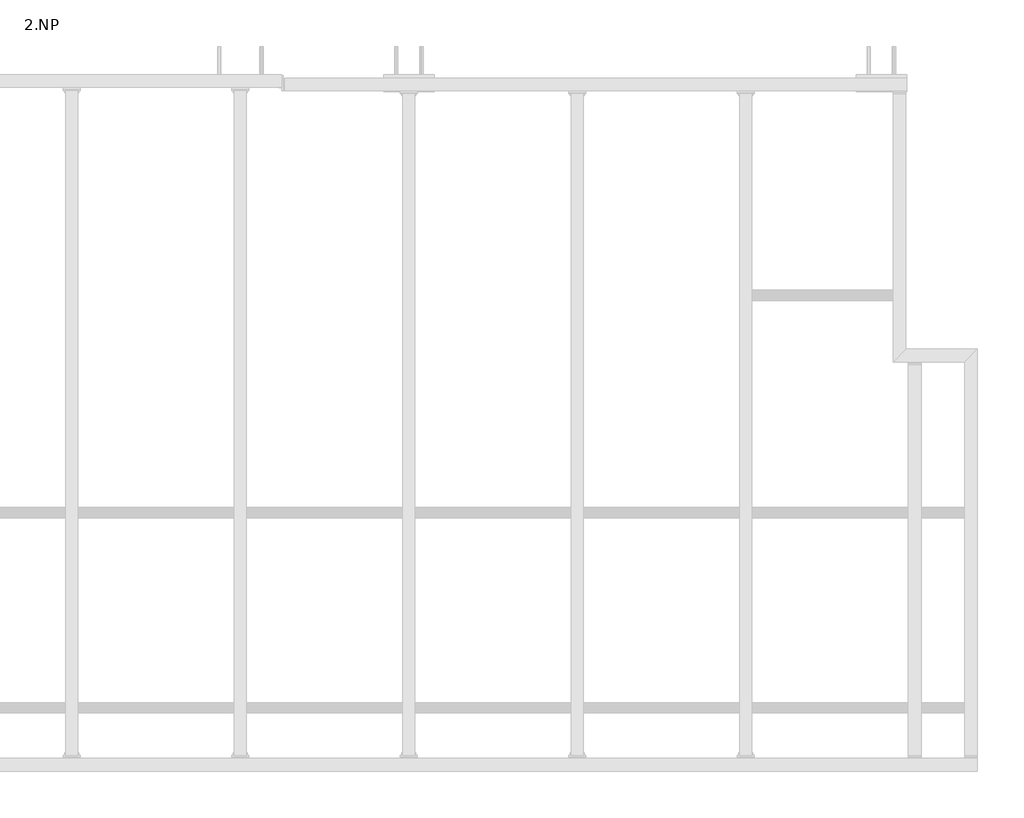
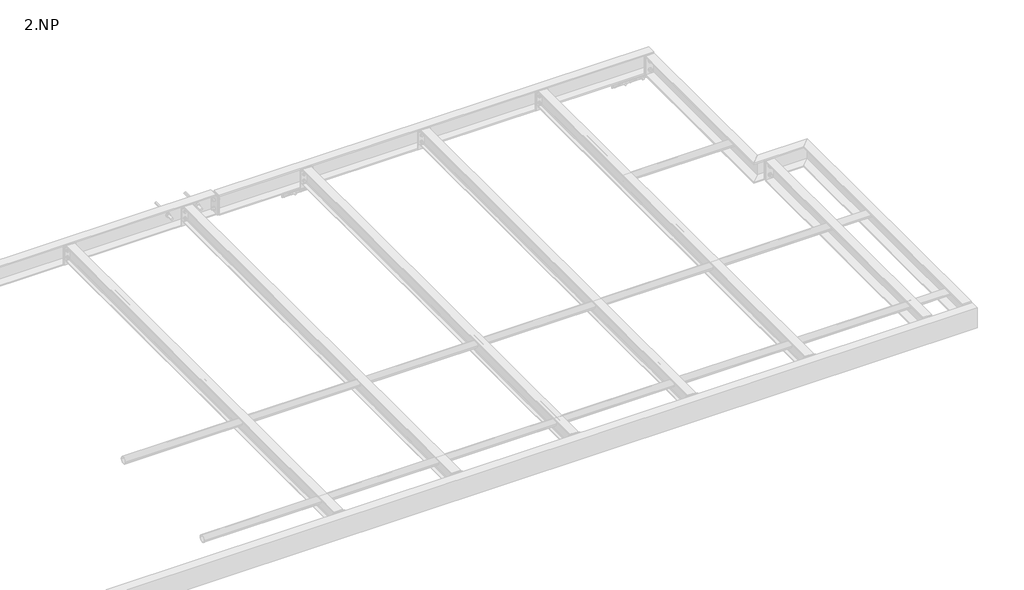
# One storey, part 18 of 18: 10 assemblies.
"""IFC4 building model written with IfcOpenShell, lengths in millimetres."""

import ifcopenshell
import ifcopenshell.guid

model = None  # the IFC model being written
_history = None  # IfcOwnerHistory: only IFC2X3 demands one
_inside = {}  # id of a spatial element -> (the spatial element, [elements in it])
_under = {}  # id of a project, library or spatial element -> (it, [spatial elements below it])
_declared = {}  # id of a project -> (the project, [libraries it declares])
_typed = {}  # id of a type object -> (the type object, [elements of that type])
_made_of = {}  # id of a material, layer set ... -> (it, [elements and type objects made of it])


def new_model(schema):
    """Start an empty IFC model of exactly this schema.

    Asked for "IFC4X3", IfcOpenShell would pick the latest addendum, in which some entities
    have other attributes; the version numbers below select the first issue.
    IFC2X3 requires an IfcOwnerHistory on every rooted entity: one is made here for all.
    """
    global model, _history
    if schema == "IFC4X3":
        model = ifcopenshell.file(schema_version=(4, 3, 0, 0))
    else:
        model = ifcopenshell.file(schema=schema)
    _inside.clear()
    _under.clear()
    _declared.clear()
    _typed.clear()
    _made_of.clear()
    _history = None
    if model.schema == "IFC2X3":
        org = make("IfcOrganization", Name="unknown")
        user = make(
            "IfcPersonAndOrganization",
            ThePerson=make("IfcPerson", FamilyName="unknown"),
            TheOrganization=org,
        )
        app = make(
            "IfcApplication",
            ApplicationDeveloper=org,
            Version="unknown",
            ApplicationFullName="unknown",
            ApplicationIdentifier="unknown",
        )
        _history = make(
            "IfcOwnerHistory",
            OwningUser=user,
            OwningApplication=app,
            ChangeAction="ADDED",
            CreationDate=0,
        )
    return model


def make(cls, **values):
    """One entity of the class cls with the attributes given. An attribute that is None is left unset."""
    return model.create_entity(
        cls, **{name: value for name, value in values.items() if value is not None}
    )


def rooted(cls, **values):
    """An entity with a GlobalId (a new one), such as an element, a storey or a relation."""
    return make(cls, GlobalId=ifcopenshell.guid.new(), OwnerHistory=_history, **values)


def si_unit(unit_type, name, prefix=None):
    """IfcSIUnit, for example si_unit("LENGTHUNIT", "METRE", prefix="MILLI")."""
    return make("IfcSIUnit", UnitType=unit_type, Prefix=prefix, Name=name)


def assignment(units):
    """IfcUnitAssignment: the units of a project."""
    return None if units is None else make("IfcUnitAssignment", Units=units)


def point(xyz):
    """IfcCartesianPoint."""
    return None if xyz is None else make("IfcCartesianPoint", Coordinates=xyz)


def direction(xyz):
    """IfcDirection."""
    return None if xyz is None else make("IfcDirection", DirectionRatios=xyz)


def frame(location, z_axis=None, x_axis=None):
    """IfcAxis2Placement3D, a coordinate frame: its origin and axes. An axis left out is left unset."""
    return make(
        "IfcAxis2Placement3D",
        Location=point(location),
        Axis=direction(z_axis),
        RefDirection=direction(x_axis),
    )


def frame_2d(location, x_axis=None):
    """IfcAxis2Placement2D, a coordinate frame in the plane: its origin and x axis."""
    return make(
        "IfcAxis2Placement2D", Location=point(location), RefDirection=direction(x_axis)
    )


def origin():
    """The frame at (0, 0, 0) with its axes left unset."""
    return frame((0.0, 0.0, 0.0))


def place(relative_to, where):
    """IfcLocalPlacement: puts the frame where relative to a parent placement (None: the world)."""
    return make(
        "IfcLocalPlacement", PlacementRelTo=relative_to, RelativePlacement=where
    )


def context(
    kind, dimensions, precision=None, world=None, true_north=None, identifier=None
):
    """IfcGeometricRepresentationContext, for example the 3D "Model" context."""
    return make(
        "IfcGeometricRepresentationContext",
        ContextIdentifier=identifier,
        ContextType=kind,
        CoordinateSpaceDimension=dimensions,
        Precision=precision,
        WorldCoordinateSystem=world,
        TrueNorth=true_north,
    )


def project(units=None, contexts=None):
    """IfcProject with its units and contexts."""
    return rooted(
        "IfcProject",
        Name="project",
        RepresentationContexts=contexts,
        UnitsInContext=assignment(units),
    )


def spatial(cls, under=None, at=None, **own):
    """A site, building, storey or space (cls), placed at a placement, below another one or the project."""
    s = rooted(cls, ObjectPlacement=at, **own)
    if under is not None:
        _under.setdefault(under.id(), (under, []))[1].append(s)
    return s


def polyline(points):
    """IfcPolyline through the points."""
    return make("IfcPolyline", Points=[point(p) for p in points])


def circle_curve(where, radius):
    """IfcCircle in the frame where."""
    return make("IfcCircle", Position=where, Radius=radius)


def trimmed(basis, trim1, trim2, sense, master):
    """IfcTrimmedCurve: the piece of a basis curve between two trims."""
    return make(
        "IfcTrimmedCurve",
        BasisCurve=basis,
        Trim1=trim1,
        Trim2=trim2,
        SenseAgreement=sense,
        MasterRepresentation=master,
    )


def segment(curve, same_sense, transition):
    """IfcCompositeCurveSegment."""
    return make(
        "IfcCompositeCurveSegment",
        Transition=transition,
        SameSense=same_sense,
        ParentCurve=curve,
    )


def composite_curve(segments, self_intersect=None):
    """IfcCompositeCurve: segments joined end to end."""
    return make("IfcCompositeCurve", Segments=segments, SelfIntersect=self_intersect)


def outline(outer, holes=None, kind="AREA"):
    """IfcArbitraryClosedProfileDef: a profile drawn as a closed curve; with holes, ...WithVoids."""
    if holes is None:
        return make("IfcArbitraryClosedProfileDef", ProfileType=kind, OuterCurve=outer)
    return make(
        "IfcArbitraryProfileDefWithVoids",
        ProfileType=kind,
        OuterCurve=outer,
        InnerCurves=holes,
    )


def extrude(swept, where, along, depth):
    """IfcExtrudedAreaSolid: the profile swept, set in the frame where, extruded along a direction by depth."""
    return make(
        "IfcExtrudedAreaSolid",
        SweptArea=swept,
        Position=where,
        ExtrudedDirection=direction(along),
        Depth=depth,
    )


def faces_of(points, faces, orient=None, outer=None):
    """IfcFace entities. A face is a list of loops; a loop is a list of indices into points, from 0.

    orient and outer hold one flag for each loop. By default every Orientation is true, the
    first loop of a face is its IfcFaceOuterBound and the others are IfcFaceBound.
    """
    made = []
    for i, loops in enumerate(faces):
        bounds = []
        for j, loop in enumerate(loops):
            is_outer = j == 0 if outer is None else outer[i][j]
            bounds.append(
                make(
                    "IfcFaceOuterBound" if is_outer else "IfcFaceBound",
                    Bound=make("IfcPolyLoop", Polygon=[points[k] for k in loop]),
                    Orientation=True if orient is None else orient[i][j],
                )
            )
        made.append(make("IfcFace", Bounds=bounds))
    return made


def faceted_brep(points, faces, orient=None, outer=None, voids=None):
    """IfcFacetedBrep: a solid bounded by flat faces; with voids (closed shells), ...WithVoids."""
    shared = [point(p) for p in points]
    hull = make("IfcClosedShell", CfsFaces=faces_of(shared, faces, orient, outer))
    if voids is None:
        return make("IfcFacetedBrep", Outer=hull)
    return make(
        "IfcFacetedBrepWithVoids",
        Outer=hull,
        Voids=[
            make(cls, CfsFaces=faces_of(shared, fs, o, b)) for cls, fs, o, b in voids
        ],
    )


def shape(context_of_items, identifier, shape_type, items):
    """IfcShapeRepresentation: the items that make up one representation, for example the "Body"."""
    return make(
        "IfcShapeRepresentation",
        ContextOfItems=context_of_items,
        RepresentationIdentifier=identifier,
        RepresentationType=shape_type,
        Items=items,
    )


def made_of(thing, what):
    """Note that an element or type object is made of a material, layer set ...; save() writes the relation."""
    if what is not None:
        _made_of.setdefault(what.id(), (what, []))[1].append(thing)
    return thing


def element(
    cls,
    number,
    at=None,
    inside=None,
    cuts=None,
    type_object=None,
    material=None,
    context=None,
    identifier="Body",
    shape_type=None,
    held_by="IfcProductDefinitionShape",
    body=None,
    shapes=None,
    **own,
):
    """One element of the class cls, such as IfcWall. Its Tag is "e" and its number.

    at: its placement. inside: the storey or other place that contains it. cuts: it is an
    opening in that element (IfcRelVoidsElement). A single representation is given by context,
    identifier, shape_type and body (its items); several are given by shapes. held_by: the class
    of the entity that holds the representations. save() writes the other relations.
    """
    e = rooted(cls, Tag="e%d" % number, ObjectPlacement=at, **own)
    if body is not None:
        shapes = [shape(context, identifier, shape_type, body)]
    if shapes is not None:
        e.Representation = make(held_by, Representations=shapes)
    if inside is not None:
        _inside.setdefault(inside.id(), (inside, []))[1].append(e)
    if cuts is not None:
        rooted(
            "IfcRelVoidsElement", RelatingBuildingElement=cuts, RelatedOpeningElement=e
        )
    if type_object is not None:
        _typed.setdefault(type_object.id(), (type_object, []))[1].append(e)
    return made_of(e, material)


def aggregate(whole, parts):
    """IfcRelAggregates: a whole, such as a stair, and the parts it consists of."""
    return rooted("IfcRelAggregates", RelatingObject=whole, RelatedObjects=parts)


def save(model, path):
    """Write the relations noted so far, then the file.

    IfcRelAggregates (storeys below a building ...), IfcRelContainedInSpatialStructure (elements
    in a storey), IfcRelDefinesByType, IfcRelAssociatesMaterial and IfcRelDeclares: one each for
    every whole, place, type object, material and project.
    """
    for whole, parts in _under.values():
        aggregate(whole, parts)
    for where, things in _inside.values():
        rooted(
            "IfcRelContainedInSpatialStructure",
            RelatedElements=things,
            RelatingStructure=where,
        )
    for kind, things in _typed.values():
        rooted("IfcRelDefinesByType", RelatedObjects=things, RelatingType=kind)
    for what, things in _made_of.values():
        rooted("IfcRelAssociatesMaterial", RelatedObjects=things, RelatingMaterial=what)
    for by, libraries in _declared.values():
        rooted("IfcRelDeclares", RelatingContext=by, RelatedDefinitions=libraries)
    model.write(path)


model = new_model("IFC4")

# Units and contexts
model_context = context("Model", 3, world=origin())
ifc_project = project(units=[si_unit("LENGTHUNIT", "METRE", prefix="MILLI")], contexts=[model_context])

# Site, building, storey
site = spatial("IfcSite", under=ifc_project)
building = spatial("IfcBuilding", under=site)
storey = spatial("IfcBuildingStorey", under=building, Name="2.NP", Elevation=3000.0)

# Assemblies
placement = place(None, origin())
element("IfcElementAssembly", 1, at=placement, inside=storey, context=model_context, shape_type="SweptSolid", body=[
    extrude(outline(composite_curve([segment(trimmed(circle_curve(frame_2d((2550.0, 3230.0)), 30.15), [point((2580.15, 3230.0))], [point((2519.85, 3230.0))], False, "CARTESIAN"), True, "CONTINUOUS"), segment(trimmed(circle_curve(frame_2d((2550.0, 3230.0)), 30.15), [point((2519.85, 3230.0))], [point((2580.15, 3230.0))], False, "CARTESIAN"), True, "CONTINUOUS")], self_intersect=False), holes=[composite_curve([segment(trimmed(circle_curve(frame_2d((2550.0, 3230.0)), 25.15), [point((2575.15, 3230.0))], [point((2524.85, 3230.0))], True, "CARTESIAN"), True, "CONTINUOUS"), segment(trimmed(circle_curve(frame_2d((2550.0, 3230.0)), 25.15), [point((2524.85, 3230.0))], [point((2575.15, 3230.0))], True, "CARTESIAN"), True, "CONTINUOUS")], self_intersect=False)]), frame((15050.0, 0.0, 0.0), z_axis=(1.0, 0.0, 0.0), x_axis=(0.0, 1.0, 0.0)), (0.0, 0.0, 1.0), 945.0),
])
element("IfcElementAssembly", 2, at=placement, inside=storey, context=model_context, shape_type="SweptSolid", body=[
    extrude(outline(composite_curve([segment(polyline([(3160.0, 15013.5), (3160.0, 15086.5), (3166.9000001, 15086.5), (3166.9000001, 15059.3499999)]), True, "CONTINUOUS"), segment(trimmed(circle_curve(frame_2d((3173.9000001, 15059.3499999)), 7.0), [point((3166.9000001, 15059.3499999))], [point((3173.9000001, 15052.3499999))], True, "CARTESIAN"), True, "CONTINUOUS"), segment(polyline([(3173.9000001, 15052.3499999), (3286.0999999, 15052.3499999)]), True, "CONTINUOUS"), segment(trimmed(circle_curve(frame_2d((3286.0999999, 15059.3499999)), 7.0), [point((3286.0999999, 15052.3499999))], [point((3293.0999999, 15059.3499999))], True, "CARTESIAN"), True, "CONTINUOUS"), segment(polyline([(3293.0999999, 15059.3499999), (3293.0999999, 15086.5), (3300.0, 15086.5), (3300.0, 15013.5), (3293.0999999, 15013.5), (3293.0999999, 15040.6500001)]), True, "CONTINUOUS"), segment(trimmed(circle_curve(frame_2d((3286.0999999, 15040.6500001)), 7.0), [point((3293.0999999, 15040.6500001))], [point((3286.0999999, 15047.6500001))], True, "CARTESIAN"), True, "CONTINUOUS"), segment(polyline([(3286.0999999, 15047.6500001), (3173.9000001, 15047.6500001)]), True, "CONTINUOUS"), segment(trimmed(circle_curve(frame_2d((3173.9000001, 15040.6500001)), 7.0), [point((3173.9000001, 15047.6500001))], [point((3166.9000001, 15040.6500001))], True, "CARTESIAN"), True, "CONTINUOUS"), segment(polyline([(3166.9000001, 15040.6500001), (3166.9000001, 15013.5), (3160.0, 15013.5)]), True, "CONTINUOUS")], self_intersect=False)), frame((0.0, -180.0, 0.0), z_axis=(0.0, 1.0, 0.0), x_axis=(0.0, 0.0, 1.0)), (0.0, 0.0, 1.0), 3927.0),
    extrude(outline(polyline([(15000.0, 3755.0), (15100.0, 3755.0), (15100.0, 3747.0), (15000.0, 3747.0), (15000.0, 3755.0)])), frame((0.0, 0.0, 3175.0), z_axis=(0.0, 0.0, 1.0), x_axis=(1.0, 0.0, 0.0)), (0.0, 0.0, 1.0), 110.0),
    extrude(outline(polyline([(15000.0, -180.0), (15100.0, -180.0), (15100.0, -190.0), (15000.0, -190.0), (15000.0, -180.0)])), frame((0.0, 0.0, 3166.5), z_axis=(0.0, 0.0, 1.0), x_axis=(1.0, 0.0, 0.0)), (0.0, 0.0, 1.0), 127.0),
])
element("IfcElementAssembly", 3, at=placement, inside=storey, context=model_context, shape_type="SolidModel", body=[
    faceted_brep([(16000.0, 3745.0, 3120.0), (15925.0, 3745.0, 3120.0), (15925.0, 3745.0, 3130.5), (15994.5, 3745.0, 3130.5), (15994.5, 3745.0, 3289.5), (15925.0, 3745.0, 3289.5), (15925.0, 3745.0, 3300.0), (16000.0, 3745.0, 3300.0), (16000.0, 2230.0, 3120.0), (15925.0, 2155.0, 3120.0), (15925.0, 2155.0, 3130.5), (15994.5, 2224.5, 3130.5), (15994.5, 2224.5, 3289.5), (15925.0, 2155.0, 3289.5), (15925.0, 2155.0, 3300.0), (16000.0, 2230.0, 3300.0)], [[[0, 1, 2, 3, 4, 5, 6, 7]], [[1, 0, 8, 9]], [[2, 1, 9, 10]], [[3, 2, 10, 11]], [[4, 3, 11, 12]], [[5, 4, 12, 13]], [[6, 5, 13, 14]], [[7, 6, 14, 15]], [[0, 7, 15, 8]], [[9, 8, 15, 14, 13, 12, 11, 10]]]),
    extrude(outline(polyline([(15925.0, 3755.0), (16000.0, 3755.0), (16000.0, 3745.0), (15925.0, 3745.0), (15925.0, 3755.0)])), frame((0.0, 0.0, 3130.0), z_axis=(0.0, 0.0, 1.0), x_axis=(1.0, 0.0, 0.0)), (0.0, 0.0, 1.0), 160.0),
])
element("IfcElementAssembly", 4, at=placement, inside=storey, context=model_context, shape_type="SweptSolid", body=[
    extrude(outline(composite_curve([segment(polyline([(3860.0, 3120.0), (3860.0, 3020.0), (3856.0, 3020.0)]), True, "CONTINUOUS"), segment(trimmed(circle_curve(frame_2d((3856.0, 3026.0)), 6.0), [point((3856.0, 3020.0))], [point((3850.0, 3026.0))], False, "CARTESIAN"), True, "CONTINUOUS"), segment(polyline([(3850.0, 3026.0), (3850.0, 3098.0)]), True, "CONTINUOUS"), segment(trimmed(circle_curve(frame_2d((3838.0, 3098.0)), 12.0), [point((3850.0, 3098.0))], [point((3838.0, 3110.0))], True, "CARTESIAN"), True, "CONTINUOUS"), segment(polyline([(3838.0, 3110.0), (3766.0, 3110.0)]), True, "CONTINUOUS"), segment(trimmed(circle_curve(frame_2d((3766.0, 3116.0)), 6.0), [point((3766.0, 3110.0))], [point((3760.0, 3116.0))], False, "CARTESIAN"), True, "CONTINUOUS"), segment(polyline([(3760.0, 3116.0), (3760.0, 3120.0), (3860.0, 3120.0)]), True, "CONTINUOUS")], self_intersect=False)), frame((15705.0, 0.0, 0.0), z_axis=(1.0, 0.0, 0.0), x_axis=(0.0, 1.0, 0.0)), (0.0, 0.0, 1.0), 300.0),
    extrude(outline(composite_curve([segment(polyline([(3770.0, 3110.0), (3835.0, 3110.0)]), True, "CONTINUOUS"), segment(trimmed(circle_curve(frame_2d((3850.0, 3110.0)), 15.0), [point((3835.0, 3110.0))], [point((3850.0, 3095.0))], True, "CARTESIAN"), True, "CONTINUOUS"), segment(polyline([(3850.0, 3095.0), (3850.0, 3030.0), (3840.0, 3030.0), (3770.0, 3100.0), (3770.0, 3110.0)]), True, "CONTINUOUS")], self_intersect=False)), frame((15715.0, 0.0, 0.0), z_axis=(1.0, 0.0, 0.0), x_axis=(0.0, 1.0, 0.0)), (0.0, 0.0, 1.0), 8.0),
    extrude(outline(composite_curve([segment(polyline([(3770.0, 3110.0), (3835.0, 3110.0)]), True, "CONTINUOUS"), segment(trimmed(circle_curve(frame_2d((3850.0, 3110.0)), 15.0), [point((3835.0, 3110.0))], [point((3850.0, 3095.0))], True, "CARTESIAN"), True, "CONTINUOUS"), segment(polyline([(3850.0, 3095.0), (3850.0, 3030.0), (3840.0, 3030.0), (3770.0, 3100.0), (3770.0, 3110.0)]), True, "CONTINUOUS")], self_intersect=False)), frame((15987.0, 0.0, 0.0), z_axis=(1.0, 0.0, 0.0), x_axis=(0.0, 1.0, 0.0)), (0.0, 0.0, 1.0), 8.0),
    extrude(outline(composite_curve([segment(polyline([(3770.0, 3110.0), (3835.0, 3110.0)]), True, "CONTINUOUS"), segment(trimmed(circle_curve(frame_2d((3850.0, 3110.0)), 15.0), [point((3835.0, 3110.0))], [point((3850.0, 3095.0))], True, "CARTESIAN"), True, "CONTINUOUS"), segment(polyline([(3850.0, 3095.0), (3850.0, 3030.0), (3840.0, 3030.0), (3770.0, 3100.0), (3770.0, 3110.0)]), True, "CONTINUOUS")], self_intersect=False)), frame((15851.0, 0.0, 0.0), z_axis=(1.0, 0.0, 0.0), x_axis=(0.0, 1.0, 0.0)), (0.0, 0.0, 1.0), 8.0),
    extrude(outline(polyline([(3070.0, 15789.8149546), (3078.5, 15784.9074773), (3078.5, 15775.0925227), (3070.0, 15770.1850454), (3061.5, 15775.0925227), (3061.5, 15784.9074773), (3070.0, 15789.8149546)])), frame((0.0, 3860.0, 0.0), z_axis=(0.0, 1.0, 0.0), x_axis=(0.0, 0.0, 1.0)), (0.0, 0.0, 1.0), 168.0),
    extrude(outline(composite_curve([segment(trimmed(circle_curve(frame_2d((3070.0, 15780.0)), 10.0), [point((3070.0, 15790.0))], [point((3070.0, 15770.0))], False, "CARTESIAN"), True, "CONTINUOUS"), segment(trimmed(circle_curve(frame_2d((3070.0, 15780.0)), 10.0), [point((3070.0, 15770.0))], [point((3070.0, 15790.0))], False, "CARTESIAN"), True, "CONTINUOUS")], self_intersect=False)), frame((0.0, 3788.0, 0.0), z_axis=(0.0, 1.0, 0.0), x_axis=(0.0, 0.0, 1.0)), (0.0, 0.0, 1.0), 72.0),
    extrude(outline(composite_curve([segment(trimmed(circle_curve(frame_2d((3070.0, 15780.0)), 18.5), [point((3070.0, 15798.5))], [point((3070.0, 15761.5))], False, "CARTESIAN"), True, "CONTINUOUS"), segment(trimmed(circle_curve(frame_2d((3070.0, 15780.0)), 18.5), [point((3070.0, 15761.5))], [point((3070.0, 15798.5))], False, "CARTESIAN"), True, "CONTINUOUS")], self_intersect=False)), frame((0.0, 3847.0, 0.0), z_axis=(0.0, 1.0, 0.0), x_axis=(0.0, 0.0, 1.0)), (0.0, 0.0, 1.0), 3.0),
    extrude(outline(polyline([(3070.0, 15797.3205081), (3085.0, 15788.660254), (3085.0, 15771.339746), (3070.0, 15762.6794919), (3055.0, 15771.339746), (3055.0, 15788.660254), (3070.0, 15797.3205081)])), frame((0.0, 3831.0, 0.0), z_axis=(0.0, 1.0, 0.0), x_axis=(0.0, 0.0, 1.0)), (0.0, 0.0, 1.0), 16.0),
    extrude(outline(composite_curve([segment(trimmed(circle_curve(frame_2d((3070.0, 15780.0)), 11.0), [point((3070.0, 15791.0))], [point((3070.0, 15769.0))], False, "CARTESIAN"), True, "CONTINUOUS"), segment(trimmed(circle_curve(frame_2d((3070.0, 15780.0)), 11.0), [point((3070.0, 15769.0))], [point((3070.0, 15791.0))], False, "CARTESIAN"), True, "CONTINUOUS")], self_intersect=False)), frame((0.0, 3849.9, 0.0), z_axis=(0.0, 1.0, 0.0), x_axis=(0.0, 0.0, 1.0)), (0.0, 0.0, 1.0), 10.1),
    extrude(outline(polyline([(3070.0, 15939.8149546), (3078.5, 15934.9074773), (3078.5, 15925.0925227), (3070.0, 15920.1850454), (3061.5, 15925.0925227), (3061.5, 15934.9074773), (3070.0, 15939.8149546)])), frame((0.0, 3860.0, 0.0), z_axis=(0.0, 1.0, 0.0), x_axis=(0.0, 0.0, 1.0)), (0.0, 0.0, 1.0), 168.0),
    extrude(outline(composite_curve([segment(trimmed(circle_curve(frame_2d((3070.0, 15930.0)), 10.0), [point((3070.0, 15940.0))], [point((3070.0, 15920.0))], False, "CARTESIAN"), True, "CONTINUOUS"), segment(trimmed(circle_curve(frame_2d((3070.0, 15930.0)), 10.0), [point((3070.0, 15920.0))], [point((3070.0, 15940.0))], False, "CARTESIAN"), True, "CONTINUOUS")], self_intersect=False)), frame((0.0, 3788.0, 0.0), z_axis=(0.0, 1.0, 0.0), x_axis=(0.0, 0.0, 1.0)), (0.0, 0.0, 1.0), 72.0),
    extrude(outline(composite_curve([segment(trimmed(circle_curve(frame_2d((3070.0, 15930.0)), 18.5), [point((3070.0, 15948.5))], [point((3070.0, 15911.5))], False, "CARTESIAN"), True, "CONTINUOUS"), segment(trimmed(circle_curve(frame_2d((3070.0, 15930.0)), 18.5), [point((3070.0, 15911.5))], [point((3070.0, 15948.5))], False, "CARTESIAN"), True, "CONTINUOUS")], self_intersect=False)), frame((0.0, 3847.0, 0.0), z_axis=(0.0, 1.0, 0.0), x_axis=(0.0, 0.0, 1.0)), (0.0, 0.0, 1.0), 3.0),
    extrude(outline(polyline([(3070.0, 15947.3205081), (3085.0, 15938.660254), (3085.0, 15921.339746), (3070.0, 15912.6794919), (3055.0, 15921.339746), (3055.0, 15938.660254), (3070.0, 15947.3205081)])), frame((0.0, 3831.0, 0.0), z_axis=(0.0, 1.0, 0.0), x_axis=(0.0, 0.0, 1.0)), (0.0, 0.0, 1.0), 16.0),
    extrude(outline(composite_curve([segment(trimmed(circle_curve(frame_2d((3070.0, 15930.0)), 11.0), [point((3070.0, 15941.0))], [point((3070.0, 15919.0))], False, "CARTESIAN"), True, "CONTINUOUS"), segment(trimmed(circle_curve(frame_2d((3070.0, 15930.0)), 11.0), [point((3070.0, 15919.0))], [point((3070.0, 15941.0))], False, "CARTESIAN"), True, "CONTINUOUS")], self_intersect=False)), frame((0.0, 3849.9, 0.0), z_axis=(0.0, 1.0, 0.0), x_axis=(0.0, 0.0, 1.0)), (0.0, 0.0, 1.0), 10.1),
])
element("IfcElementAssembly", 5, at=placement, inside=storey, context=model_context, shape_type="SweptSolid", body=[
    extrude(outline(composite_curve([segment(polyline([(3860.0, 3120.0), (3860.0, 3020.0), (3856.0, 3020.0)]), True, "CONTINUOUS"), segment(trimmed(circle_curve(frame_2d((3856.0, 3026.0)), 6.0), [point((3856.0, 3020.0))], [point((3850.0, 3026.0))], False, "CARTESIAN"), True, "CONTINUOUS"), segment(polyline([(3850.0, 3026.0), (3850.0, 3098.0)]), True, "CONTINUOUS"), segment(trimmed(circle_curve(frame_2d((3838.0, 3098.0)), 12.0), [point((3850.0, 3098.0))], [point((3838.0, 3110.0))], True, "CARTESIAN"), True, "CONTINUOUS"), segment(polyline([(3838.0, 3110.0), (3766.0, 3110.0)]), True, "CONTINUOUS"), segment(trimmed(circle_curve(frame_2d((3766.0, 3116.0)), 6.0), [point((3766.0, 3110.0))], [point((3760.0, 3116.0))], False, "CARTESIAN"), True, "CONTINUOUS"), segment(polyline([(3760.0, 3116.0), (3760.0, 3120.0), (3860.0, 3120.0)]), True, "CONTINUOUS")], self_intersect=False)), frame((12900.0, 0.0, 0.0), z_axis=(1.0, 0.0, 0.0), x_axis=(0.0, 1.0, 0.0)), (0.0, 0.0, 1.0), 300.0),
    extrude(outline(composite_curve([segment(polyline([(3770.0, 3110.0), (3835.0, 3110.0)]), True, "CONTINUOUS"), segment(trimmed(circle_curve(frame_2d((3850.0, 3110.0)), 15.0), [point((3835.0, 3110.0))], [point((3850.0, 3095.0))], True, "CARTESIAN"), True, "CONTINUOUS"), segment(polyline([(3850.0, 3095.0), (3850.0, 3030.0), (3840.0, 3030.0), (3770.0, 3100.0), (3770.0, 3110.0)]), True, "CONTINUOUS")], self_intersect=False)), frame((12910.0, 0.0, 0.0), z_axis=(1.0, 0.0, 0.0), x_axis=(0.0, 1.0, 0.0)), (0.0, 0.0, 1.0), 8.0),
    extrude(outline(composite_curve([segment(polyline([(3770.0, 3110.0), (3835.0, 3110.0)]), True, "CONTINUOUS"), segment(trimmed(circle_curve(frame_2d((3850.0, 3110.0)), 15.0), [point((3835.0, 3110.0))], [point((3850.0, 3095.0))], True, "CARTESIAN"), True, "CONTINUOUS"), segment(polyline([(3850.0, 3095.0), (3850.0, 3030.0), (3840.0, 3030.0), (3770.0, 3100.0), (3770.0, 3110.0)]), True, "CONTINUOUS")], self_intersect=False)), frame((13182.0, 0.0, 0.0), z_axis=(1.0, 0.0, 0.0), x_axis=(0.0, 1.0, 0.0)), (0.0, 0.0, 1.0), 8.0),
    extrude(outline(composite_curve([segment(polyline([(3770.0, 3110.0), (3835.0, 3110.0)]), True, "CONTINUOUS"), segment(trimmed(circle_curve(frame_2d((3850.0, 3110.0)), 15.0), [point((3835.0, 3110.0))], [point((3850.0, 3095.0))], True, "CARTESIAN"), True, "CONTINUOUS"), segment(polyline([(3850.0, 3095.0), (3850.0, 3030.0), (3840.0, 3030.0), (3770.0, 3100.0), (3770.0, 3110.0)]), True, "CONTINUOUS")], self_intersect=False)), frame((13046.0, 0.0, 0.0), z_axis=(1.0, 0.0, 0.0), x_axis=(0.0, 1.0, 0.0)), (0.0, 0.0, 1.0), 8.0),
    extrude(outline(polyline([(3070.0, 12984.8149546), (3078.5, 12979.9074773), (3078.5, 12970.0925227), (3070.0, 12965.1850454), (3061.5, 12970.0925227), (3061.5, 12979.9074773), (3070.0, 12984.8149546)])), frame((0.0, 3860.0, 0.0), z_axis=(0.0, 1.0, 0.0), x_axis=(0.0, 0.0, 1.0)), (0.0, 0.0, 1.0), 168.0),
    extrude(outline(composite_curve([segment(trimmed(circle_curve(frame_2d((3070.0, 12975.0)), 10.0), [point((3070.0, 12985.0))], [point((3070.0, 12965.0))], False, "CARTESIAN"), True, "CONTINUOUS"), segment(trimmed(circle_curve(frame_2d((3070.0, 12975.0)), 10.0), [point((3070.0, 12965.0))], [point((3070.0, 12985.0))], False, "CARTESIAN"), True, "CONTINUOUS")], self_intersect=False)), frame((0.0, 3788.0, 0.0), z_axis=(0.0, 1.0, 0.0), x_axis=(0.0, 0.0, 1.0)), (0.0, 0.0, 1.0), 72.0),
    extrude(outline(composite_curve([segment(trimmed(circle_curve(frame_2d((3070.0, 12975.0)), 18.5), [point((3070.0, 12993.5))], [point((3070.0, 12956.5))], False, "CARTESIAN"), True, "CONTINUOUS"), segment(trimmed(circle_curve(frame_2d((3070.0, 12975.0)), 18.5), [point((3070.0, 12956.5))], [point((3070.0, 12993.5))], False, "CARTESIAN"), True, "CONTINUOUS")], self_intersect=False)), frame((0.0, 3847.0, 0.0), z_axis=(0.0, 1.0, 0.0), x_axis=(0.0, 0.0, 1.0)), (0.0, 0.0, 1.0), 3.0),
    extrude(outline(polyline([(3070.0, 12992.3205081), (3085.0, 12983.660254), (3085.0, 12966.339746), (3070.0, 12957.6794919), (3055.0, 12966.339746), (3055.0, 12983.660254), (3070.0, 12992.3205081)])), frame((0.0, 3831.0, 0.0), z_axis=(0.0, 1.0, 0.0), x_axis=(0.0, 0.0, 1.0)), (0.0, 0.0, 1.0), 16.0),
    extrude(outline(composite_curve([segment(trimmed(circle_curve(frame_2d((3070.0, 12975.0)), 11.0), [point((3070.0, 12986.0))], [point((3070.0, 12964.0))], False, "CARTESIAN"), True, "CONTINUOUS"), segment(trimmed(circle_curve(frame_2d((3070.0, 12975.0)), 11.0), [point((3070.0, 12964.0))], [point((3070.0, 12986.0))], False, "CARTESIAN"), True, "CONTINUOUS")], self_intersect=False)), frame((0.0, 3849.9, 0.0), z_axis=(0.0, 1.0, 0.0), x_axis=(0.0, 0.0, 1.0)), (0.0, 0.0, 1.0), 10.1),
    extrude(outline(polyline([(3070.0, 13134.8149546), (3078.5, 13129.9074773), (3078.5, 13120.0925227), (3070.0, 13115.1850454), (3061.5, 13120.0925227), (3061.5, 13129.9074773), (3070.0, 13134.8149546)])), frame((0.0, 3860.0, 0.0), z_axis=(0.0, 1.0, 0.0), x_axis=(0.0, 0.0, 1.0)), (0.0, 0.0, 1.0), 168.0),
    extrude(outline(composite_curve([segment(trimmed(circle_curve(frame_2d((3070.0, 13125.0)), 10.0), [point((3070.0, 13135.0))], [point((3070.0, 13115.0))], False, "CARTESIAN"), True, "CONTINUOUS"), segment(trimmed(circle_curve(frame_2d((3070.0, 13125.0)), 10.0), [point((3070.0, 13115.0))], [point((3070.0, 13135.0))], False, "CARTESIAN"), True, "CONTINUOUS")], self_intersect=False)), frame((0.0, 3788.0, 0.0), z_axis=(0.0, 1.0, 0.0), x_axis=(0.0, 0.0, 1.0)), (0.0, 0.0, 1.0), 72.0),
    extrude(outline(composite_curve([segment(trimmed(circle_curve(frame_2d((3070.0, 13125.0)), 18.5), [point((3070.0, 13143.5))], [point((3070.0, 13106.5))], False, "CARTESIAN"), True, "CONTINUOUS"), segment(trimmed(circle_curve(frame_2d((3070.0, 13125.0)), 18.5), [point((3070.0, 13106.5))], [point((3070.0, 13143.5))], False, "CARTESIAN"), True, "CONTINUOUS")], self_intersect=False)), frame((0.0, 3847.0, 0.0), z_axis=(0.0, 1.0, 0.0), x_axis=(0.0, 0.0, 1.0)), (0.0, 0.0, 1.0), 3.0),
    extrude(outline(polyline([(3070.0, 13142.3205081), (3085.0, 13133.660254), (3085.0, 13116.339746), (3070.0, 13107.6794919), (3055.0, 13116.339746), (3055.0, 13133.660254), (3070.0, 13142.3205081)])), frame((0.0, 3831.0, 0.0), z_axis=(0.0, 1.0, 0.0), x_axis=(0.0, 0.0, 1.0)), (0.0, 0.0, 1.0), 16.0),
    extrude(outline(composite_curve([segment(trimmed(circle_curve(frame_2d((3070.0, 13125.0)), 11.0), [point((3070.0, 13136.0))], [point((3070.0, 13114.0))], False, "CARTESIAN"), True, "CONTINUOUS"), segment(trimmed(circle_curve(frame_2d((3070.0, 13125.0)), 11.0), [point((3070.0, 13114.0))], [point((3070.0, 13136.0))], False, "CARTESIAN"), True, "CONTINUOUS")], self_intersect=False)), frame((0.0, 3849.9, 0.0), z_axis=(0.0, 1.0, 0.0), x_axis=(0.0, 0.0, 1.0)), (0.0, 0.0, 1.0), 10.1),
])
element("IfcElementAssembly", 6, at=placement, inside=storey, context=model_context, shape_type="SweptSolid", body=[
    extrude(outline(polyline([(3300.0, 16090.0), (3300.0, 16015.0), (3289.5, 16015.0), (3289.5, 16084.5), (3130.5, 16084.5), (3130.5, 16015.0), (3120.0, 16015.0), (3120.0, 16090.0), (3300.0, 16090.0)])), frame((0.0, -180.0, 0.0), z_axis=(0.0, 1.0, 0.0), x_axis=(0.0, 0.0, 1.0)), (0.0, 0.0, 1.0), 2315.0),
    extrude(outline(polyline([(16015.0, -180.0), (16090.0, -180.0), (16090.0, -190.0), (16015.0, -190.0), (16015.0, -180.0)])), frame((0.0, 0.0, 3130.0), z_axis=(0.0, 0.0, 1.0), x_axis=(1.0, 0.0, 0.0)), (0.0, 0.0, 1.0), 160.0),
    extrude(outline(polyline([(16015.0, 2145.0), (16090.0, 2145.0), (16090.0, 2135.0), (16015.0, 2135.0), (16015.0, 2145.0)])), frame((0.0, 0.0, 3130.0), z_axis=(0.0, 0.0, 1.0), x_axis=(1.0, 0.0, 0.0)), (0.0, 0.0, 1.0), 160.0),
])
element("IfcElementAssembly", 7, at=placement, inside=storey, context=model_context, shape_type="SolidModel", body=[
    faceted_brep([(16425.0, 2230.0, 3120.0), (16350.0, 2155.0, 3120.0), (15925.0, 2155.0, 3120.0), (16000.0, 2230.0, 3120.0), (16350.0, 2155.0, 3130.5), (15925.0, 2155.0, 3130.5), (16419.5, 2224.5, 3130.5), (15994.5, 2224.5, 3130.5), (16419.5, 2224.5, 3289.5), (15994.5, 2224.5, 3289.5), (16350.0, 2155.0, 3289.5), (15925.0, 2155.0, 3289.5), (16350.0, 2155.0, 3300.0), (15925.0, 2155.0, 3300.0), (16425.0, 2230.0, 3300.0), (16000.0, 2230.0, 3300.0)], [[[0, 1, 2, 3]], [[2, 1, 4, 5]], [[5, 4, 6, 7]], [[6, 8, 9, 7]], [[8, 10, 11, 9]], [[11, 10, 12, 13]], [[13, 12, 14, 15]], [[14, 0, 3, 15]], [[1, 0, 14, 12, 10, 8, 6, 4]], [[3, 2, 5, 7, 9, 11, 13, 15]]]),
    extrude(outline(polyline([(16015.0, 2155.0), (16090.0, 2155.0), (16090.0, 2145.0), (16015.0, 2145.0), (16015.0, 2155.0)])), frame((0.0, 0.0, 3130.0), z_axis=(0.0, 0.0, 1.0), x_axis=(1.0, 0.0, 0.0)), (0.0, 0.0, 1.0), 160.0),
    extrude(outline(composite_curve([segment(polyline([(2155.0, 3289.5), (2204.5, 3289.5)]), True, "CONTINUOUS"), segment(trimmed(circle_curve(frame_2d((2224.5, 3289.5)), 20.0), [point((2204.5, 3289.5))], [point((2224.5, 3269.5))], True, "CARTESIAN"), True, "CONTINUOUS"), segment(polyline([(2224.5, 3269.5), (2224.5, 3150.5)]), True, "CONTINUOUS"), segment(trimmed(circle_curve(frame_2d((2224.5, 3130.5)), 20.0), [point((2224.5, 3150.5))], [point((2204.5, 3130.5))], True, "CARTESIAN"), True, "CONTINUOUS"), segment(polyline([(2204.5, 3130.5), (2155.0, 3130.5), (2155.0, 3289.5)]), True, "CONTINUOUS")], self_intersect=False)), frame((16076.5, 0.0, 0.0), z_axis=(1.0, 0.0, 0.0), x_axis=(0.0, 1.0, 0.0)), (0.0, 0.0, 1.0), 8.0),
    extrude(outline(composite_curve([segment(trimmed(circle_curve(frame_2d((3170.0, 16050.0)), 9.0), [point((3170.0, 16059.0))], [point((3170.0, 16041.0))], False, "CARTESIAN"), True, "CONTINUOUS"), segment(trimmed(circle_curve(frame_2d((3170.0, 16050.0)), 9.0), [point((3170.0, 16041.0))], [point((3170.0, 16059.0))], False, "CARTESIAN"), True, "CONTINUOUS")], self_intersect=False)), frame((0.0, 2144.9, 0.0), z_axis=(0.0, 1.0, 0.0), x_axis=(0.0, 0.0, 1.0)), (0.0, 0.0, 1.0), 10.0),
    extrude(outline(polyline([(3170.0, 16063.8564065), (3182.0, 16056.9282032), (3182.0, 16043.0717968), (3170.0, 16036.1435935), (3158.0, 16043.0717968), (3158.0, 16056.9282032), (3170.0, 16063.8564065)])), frame((0.0, 2158.0, 0.0), z_axis=(0.0, 1.0, 0.0), x_axis=(0.0, 0.0, 1.0)), (0.0, 0.0, 1.0), 10.0),
    extrude(outline(composite_curve([segment(trimmed(circle_curve(frame_2d((3170.0, 16050.0)), 8.0), [point((3170.0, 16058.0))], [point((3170.0, 16042.0))], False, "CARTESIAN"), True, "CONTINUOUS"), segment(trimmed(circle_curve(frame_2d((3170.0, 16050.0)), 8.0), [point((3170.0, 16042.0))], [point((3170.0, 16058.0))], False, "CARTESIAN"), True, "CONTINUOUS")], self_intersect=False)), frame((0.0, 2108.0, 0.0), z_axis=(0.0, 1.0, 0.0), x_axis=(0.0, 0.0, 1.0)), (0.0, 0.0, 1.0), 50.0),
    extrude(outline(composite_curve([segment(trimmed(circle_curve(frame_2d((3170.0, 16050.0)), 15.0), [point((3170.0, 16065.0))], [point((3170.0, 16035.0))], False, "CARTESIAN"), True, "CONTINUOUS"), segment(trimmed(circle_curve(frame_2d((3170.0, 16050.0)), 15.0), [point((3170.0, 16035.0))], [point((3170.0, 16065.0))], False, "CARTESIAN"), True, "CONTINUOUS")], self_intersect=False)), frame((0.0, 2155.0, 0.0), z_axis=(0.0, 1.0, 0.0), x_axis=(0.0, 0.0, 1.0)), (0.0, 0.0, 1.0), 3.0),
    extrude(outline(composite_curve([segment(trimmed(circle_curve(frame_2d((3170.0, 16050.0)), 15.0), [point((3170.0, 16065.0))], [point((3170.0, 16035.0))], False, "CARTESIAN"), True, "CONTINUOUS"), segment(trimmed(circle_curve(frame_2d((3170.0, 16050.0)), 15.0), [point((3170.0, 16035.0))], [point((3170.0, 16065.0))], False, "CARTESIAN"), True, "CONTINUOUS")], self_intersect=False)), frame((0.0, 2132.0, 0.0), z_axis=(0.0, 1.0, 0.0), x_axis=(0.0, 0.0, 1.0)), (0.0, 0.0, 1.0), 3.0),
    extrude(outline(polyline([(3170.0, 16065.4441197), (3183.375, 16057.7220599), (3183.375, 16042.2779401), (3170.0, 16034.5558803), (3156.625, 16042.2779401), (3156.625, 16057.7220599), (3170.0, 16065.4441197)])), frame((0.0, 2119.0, 0.0), z_axis=(0.0, 1.0, 0.0), x_axis=(0.0, 0.0, 1.0)), (0.0, 0.0, 1.0), 13.0),
    extrude(outline(composite_curve([segment(trimmed(circle_curve(frame_2d((3170.0, 16050.0)), 9.0), [point((3170.0, 16059.0))], [point((3170.0, 16041.0))], False, "CARTESIAN"), True, "CONTINUOUS"), segment(trimmed(circle_curve(frame_2d((3170.0, 16050.0)), 9.0), [point((3170.0, 16041.0))], [point((3170.0, 16059.0))], False, "CARTESIAN"), True, "CONTINUOUS")], self_intersect=False)), frame((0.0, 2135.0, 0.0), z_axis=(0.0, 1.0, 0.0), x_axis=(0.0, 0.0, 1.0)), (0.0, 0.0, 1.0), 10.1),
    extrude(outline(composite_curve([segment(trimmed(circle_curve(frame_2d((3250.0, 16050.0)), 9.0), [point((3250.0, 16059.0))], [point((3250.0, 16041.0))], False, "CARTESIAN"), True, "CONTINUOUS"), segment(trimmed(circle_curve(frame_2d((3250.0, 16050.0)), 9.0), [point((3250.0, 16041.0))], [point((3250.0, 16059.0))], False, "CARTESIAN"), True, "CONTINUOUS")], self_intersect=False)), frame((0.0, 2144.9, 0.0), z_axis=(0.0, 1.0, 0.0), x_axis=(0.0, 0.0, 1.0)), (0.0, 0.0, 1.0), 10.0),
    extrude(outline(polyline([(3250.0, 16063.8564065), (3262.0, 16056.9282032), (3262.0, 16043.0717968), (3250.0, 16036.1435935), (3238.0, 16043.0717968), (3238.0, 16056.9282032), (3250.0, 16063.8564065)])), frame((0.0, 2158.0, 0.0), z_axis=(0.0, 1.0, 0.0), x_axis=(0.0, 0.0, 1.0)), (0.0, 0.0, 1.0), 10.0),
    extrude(outline(composite_curve([segment(trimmed(circle_curve(frame_2d((3250.0, 16050.0)), 8.0), [point((3250.0, 16058.0))], [point((3250.0, 16042.0))], False, "CARTESIAN"), True, "CONTINUOUS"), segment(trimmed(circle_curve(frame_2d((3250.0, 16050.0)), 8.0), [point((3250.0, 16042.0))], [point((3250.0, 16058.0))], False, "CARTESIAN"), True, "CONTINUOUS")], self_intersect=False)), frame((0.0, 2108.0, 0.0), z_axis=(0.0, 1.0, 0.0), x_axis=(0.0, 0.0, 1.0)), (0.0, 0.0, 1.0), 50.0),
    extrude(outline(composite_curve([segment(trimmed(circle_curve(frame_2d((3250.0, 16050.0)), 15.0), [point((3250.0, 16065.0))], [point((3250.0, 16035.0))], False, "CARTESIAN"), True, "CONTINUOUS"), segment(trimmed(circle_curve(frame_2d((3250.0, 16050.0)), 15.0), [point((3250.0, 16035.0))], [point((3250.0, 16065.0))], False, "CARTESIAN"), True, "CONTINUOUS")], self_intersect=False)), frame((0.0, 2155.0, 0.0), z_axis=(0.0, 1.0, 0.0), x_axis=(0.0, 0.0, 1.0)), (0.0, 0.0, 1.0), 3.0),
    extrude(outline(composite_curve([segment(trimmed(circle_curve(frame_2d((3250.0, 16050.0)), 15.0), [point((3250.0, 16065.0))], [point((3250.0, 16035.0))], False, "CARTESIAN"), True, "CONTINUOUS"), segment(trimmed(circle_curve(frame_2d((3250.0, 16050.0)), 15.0), [point((3250.0, 16035.0))], [point((3250.0, 16065.0))], False, "CARTESIAN"), True, "CONTINUOUS")], self_intersect=False)), frame((0.0, 2132.0, 0.0), z_axis=(0.0, 1.0, 0.0), x_axis=(0.0, 0.0, 1.0)), (0.0, 0.0, 1.0), 3.0),
    extrude(outline(polyline([(3250.0, 16065.4441197), (3263.375, 16057.7220599), (3263.375, 16042.2779401), (3250.0, 16034.5558803), (3236.625, 16042.2779401), (3236.625, 16057.7220599), (3250.0, 16065.4441197)])), frame((0.0, 2119.0, 0.0), z_axis=(0.0, 1.0, 0.0), x_axis=(0.0, 0.0, 1.0)), (0.0, 0.0, 1.0), 13.0),
    extrude(outline(composite_curve([segment(trimmed(circle_curve(frame_2d((3250.0, 16050.0)), 9.0), [point((3250.0, 16059.0))], [point((3250.0, 16041.0))], False, "CARTESIAN"), True, "CONTINUOUS"), segment(trimmed(circle_curve(frame_2d((3250.0, 16050.0)), 9.0), [point((3250.0, 16041.0))], [point((3250.0, 16059.0))], False, "CARTESIAN"), True, "CONTINUOUS")], self_intersect=False)), frame((0.0, 2135.0, 0.0), z_axis=(0.0, 1.0, 0.0), x_axis=(0.0, 0.0, 1.0)), (0.0, 0.0, 1.0), 10.1),
])
element("IfcElementAssembly", 8, at=placement, inside=storey, context=model_context, shape_type="SweptSolid", body=[
    extrude(outline(composite_curve([segment(trimmed(circle_curve(frame_2d((1260.0, 3230.0)), 30.15), [point((1290.15, 3230.0))], [point((1229.85, 3230.0))], False, "CARTESIAN"), True, "CONTINUOUS"), segment(trimmed(circle_curve(frame_2d((1260.0, 3230.0)), 30.15), [point((1229.85, 3230.0))], [point((1290.15, 3230.0))], False, "CARTESIAN"), True, "CONTINUOUS")], self_intersect=False), holes=[composite_curve([segment(trimmed(circle_curve(frame_2d((1260.0, 3230.0)), 25.15), [point((1285.15, 3230.0))], [point((1234.85, 3230.0))], True, "CARTESIAN"), True, "CONTINUOUS"), segment(trimmed(circle_curve(frame_2d((1260.0, 3230.0)), 25.15), [point((1234.85, 3230.0))], [point((1285.15, 3230.0))], True, "CARTESIAN"), True, "CONTINUOUS")], self_intersect=False)]), frame((16090.0, 0.0, 0.0), z_axis=(1.0, 0.0, 0.0), x_axis=(0.0, 1.0, 0.0)), (0.0, 0.0, 1.0), 329.5),
])
element("IfcElementAssembly", 9, at=placement, inside=storey, context=model_context, shape_type="SweptSolid", body=[
    extrude(outline(composite_curve([segment(trimmed(circle_curve(frame_2d((100.0, 3230.0)), 30.15), [point((130.15, 3230.0))], [point((69.85, 3230.0))], False, "CARTESIAN"), True, "CONTINUOUS"), segment(trimmed(circle_curve(frame_2d((100.0, 3230.0)), 30.15), [point((69.85, 3230.0))], [point((130.15, 3230.0))], False, "CARTESIAN"), True, "CONTINUOUS")], self_intersect=False), holes=[composite_curve([segment(trimmed(circle_curve(frame_2d((100.0, 3230.0)), 25.15), [point((125.15, 3230.0))], [point((74.85, 3230.0))], True, "CARTESIAN"), True, "CONTINUOUS"), segment(trimmed(circle_curve(frame_2d((100.0, 3230.0)), 25.15), [point((74.85, 3230.0))], [point((125.15, 3230.0))], True, "CARTESIAN"), True, "CONTINUOUS")], self_intersect=False)]), frame((16090.0, 0.0, 0.0), z_axis=(1.0, 0.0, 0.0), x_axis=(0.0, 1.0, 0.0)), (0.0, 0.0, 1.0), 329.5),
])
element("IfcElementAssembly", 10, at=placement, inside=storey, context=model_context, shape_type="SolidModel", body=[
    faceted_brep([(16425.0, -180.0, 3300.0), (16350.0, -180.0, 3300.0), (16350.0, -180.0, 3289.5), (16419.5, -180.0, 3289.5), (16419.5, -180.0, 3130.5), (16350.0, -180.0, 3130.5), (16350.0, -180.0, 3120.0), (16425.0, -180.0, 3120.0), (16425.0, 2230.0, 3300.0), (16350.0, 2155.0, 3300.0), (16350.0, 2155.0, 3289.5), (16419.5, 2224.5, 3289.5), (16419.5, 2224.5, 3130.5), (16350.0, 2155.0, 3130.5), (16350.0, 2155.0, 3120.0), (16425.0, 2230.0, 3120.0)], [[[0, 1, 2, 3, 4, 5, 6, 7]], [[1, 0, 8, 9]], [[2, 1, 9, 10]], [[3, 2, 10, 11]], [[4, 3, 11, 12]], [[5, 4, 12, 13]], [[6, 5, 13, 14]], [[7, 6, 14, 15]], [[0, 7, 15, 8]], [[9, 8, 15, 14, 13, 12, 11, 10]]]),
    extrude(outline(polyline([(16350.0, -180.0), (16425.0, -180.0), (16425.0, -190.0), (16350.0, -190.0), (16350.0, -180.0)])), frame((0.0, 0.0, 3130.0), z_axis=(0.0, 0.0, 1.0), x_axis=(1.0, 0.0, 0.0)), (0.0, 0.0, 1.0), 160.0),
])

save(model, "model.ifc")
